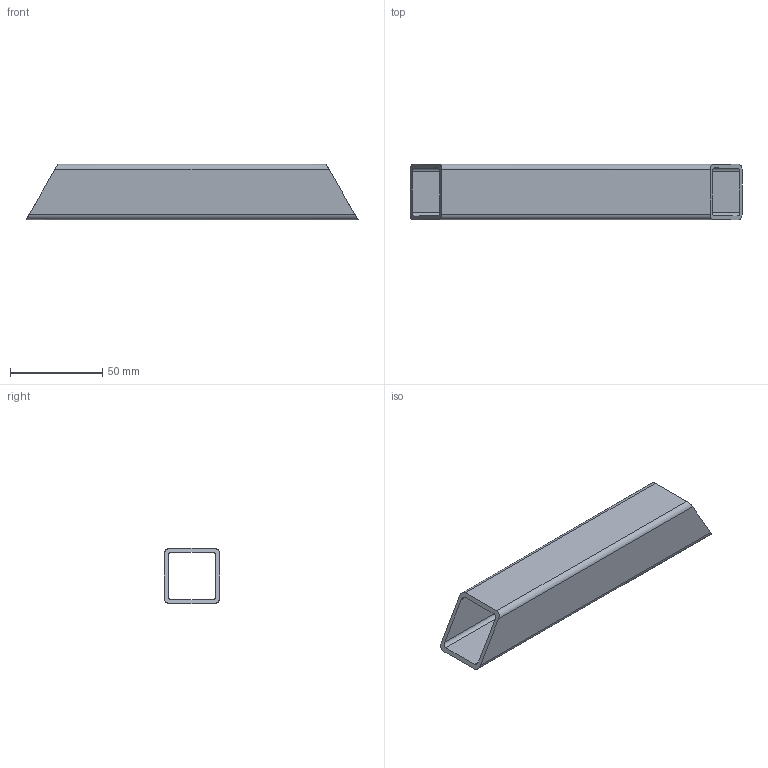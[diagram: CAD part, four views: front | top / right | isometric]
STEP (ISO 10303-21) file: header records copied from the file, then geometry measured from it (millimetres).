
FILE_DESCRIPTION (( 'STEP AP214' ), '1' );
FILE_NAME ('MONO_038-p206_02.STEP', '2026-03-24T00:34:37', ( '' ), ( '' ), 'SwSTEP 2.0', 'SolidWorks 2024', '' );
FILE_SCHEMA (( 'AUTOMOTIVE_DESIGN' ));
Length unit declared in the file: millimetre
Products named in the file (1): MONO_038-p206_02
Bounding box: 180 x 30 x 30 mm (x, y, z)
Volume: 35742 mm3; surface area: 35551.1 mm2
Topology: 1 solids, 1 shells, 18 faces, 48 edges, 32 vertices
Faces by surface type: plane 10, cylinder 8
Entity records: 579 total; most frequent: CARTESIAN_POINT 147, ORIENTED_EDGE 96, DIRECTION 70, EDGE_CURVE 48, LINE 32, VERTEX_POINT 32, VECTOR 32, EDGE_LOOP 20
